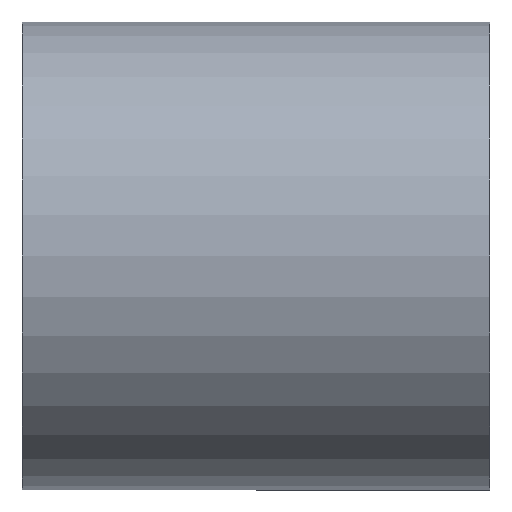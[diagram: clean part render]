
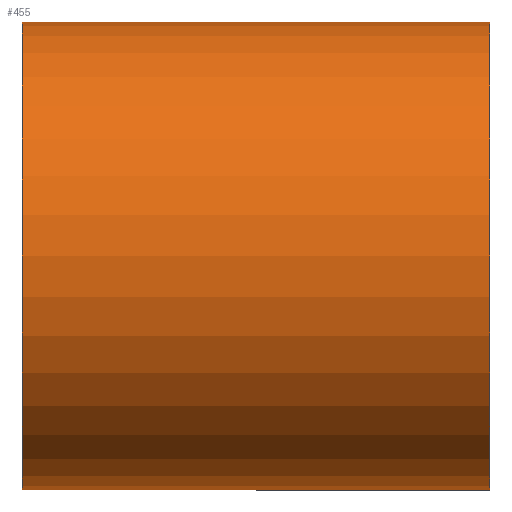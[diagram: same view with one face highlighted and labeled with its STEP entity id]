
A CAD part, front view. The second image highlights one B-rep face of the part: STEP entity #455.
In plain terms, the highlighted cylindrical face has radius 5 mm (diameter 10 mm), a partial arc.
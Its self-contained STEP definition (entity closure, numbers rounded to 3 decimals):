
#99 = VERTEX_POINT ( 'NONE', #199 ) ;
#106 = ORIENTED_EDGE ( 'NONE', *, *, #585, .T. ) ;
#111 = VECTOR ( 'NONE', #428, 1000. ) ;
#153 = CARTESIAN_POINT ( 'NONE',  ( 0., 0., 5. ) ) ;
#155 = CIRCLE ( 'NONE', #511, 5. ) ;
#186 = DIRECTION ( 'NONE',  ( 0., 0., 1. ) ) ;
#199 = CARTESIAN_POINT ( 'NONE',  ( 5., 0., 5. ) ) ;
#234 = DIRECTION ( 'NONE',  ( -1., 0., 0. ) ) ;
#294 = EDGE_CURVE ( 'NONE', #99, #629, #376, .T. ) ;
#295 = EDGE_LOOP ( 'NONE', ( #437, #106, #552, #365 ) ) ;
#316 = CIRCLE ( 'NONE', #377, 5. ) ;
#317 = LINE ( 'NONE', #659, #412 ) ;
#365 = ORIENTED_EDGE ( 'NONE', *, *, #366, .F. ) ;
#366 = EDGE_CURVE ( 'NONE', #887, #629, #316, .T. ) ;
#376 = LINE ( 'NONE', #153, #111 ) ;
#377 = AXIS2_PLACEMENT_3D ( 'NONE', #462, #384, #661 ) ;
#383 = DIRECTION ( 'NONE',  ( -1., 0., 0. ) ) ;
#384 = DIRECTION ( 'NONE',  ( -1., 0., 0. ) ) ;
#412 = VECTOR ( 'NONE', #383, 1000. ) ;
#426 = CARTESIAN_POINT ( 'NONE',  ( -5., 0., -5. ) ) ;
#428 = DIRECTION ( 'NONE',  ( -1., 0., 0. ) ) ;
#437 = ORIENTED_EDGE ( 'NONE', *, *, #649, .F. ) ;
#455 = ADVANCED_FACE ( 'NONE', ( #547 ), #878, .T. ) ;
#460 = CARTESIAN_POINT ( 'NONE',  ( 5., 0., 0. ) ) ;
#462 = CARTESIAN_POINT ( 'NONE',  ( -5., 0., 0. ) ) ;
#511 = AXIS2_PLACEMENT_3D ( 'NONE', #460, #234, #186 ) ;
#547 = FACE_OUTER_BOUND ( 'NONE', #295, .T. ) ;
#552 = ORIENTED_EDGE ( 'NONE', *, *, #294, .T. ) ;
#585 = EDGE_CURVE ( 'NONE', #848, #99, #155, .T. ) ;
#618 = AXIS2_PLACEMENT_3D ( 'NONE', #674, #825, #753 ) ;
#629 = VERTEX_POINT ( 'NONE', #796 ) ;
#649 = EDGE_CURVE ( 'NONE', #848, #887, #317, .T. ) ;
#659 = CARTESIAN_POINT ( 'NONE',  ( 0., 0., -5. ) ) ;
#661 = DIRECTION ( 'NONE',  ( 0., 0., 1. ) ) ;
#674 = CARTESIAN_POINT ( 'NONE',  ( 0., 0., 0. ) ) ;
#753 = DIRECTION ( 'NONE',  ( 0., 0., 1. ) ) ;
#776 = CARTESIAN_POINT ( 'NONE',  ( 5., 0., -5. ) ) ;
#796 = CARTESIAN_POINT ( 'NONE',  ( -5., 0., 5. ) ) ;
#825 = DIRECTION ( 'NONE',  ( -1., 0., 0. ) ) ;
#848 = VERTEX_POINT ( 'NONE', #776 ) ;
#878 = CYLINDRICAL_SURFACE ( 'NONE', #618, 5. ) ;
#887 = VERTEX_POINT ( 'NONE', #426 ) ;
